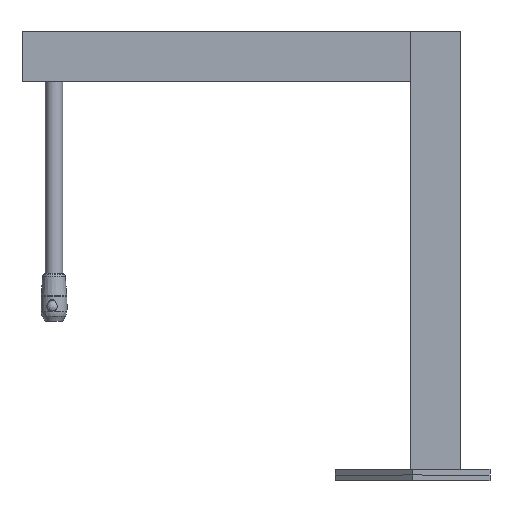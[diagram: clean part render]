
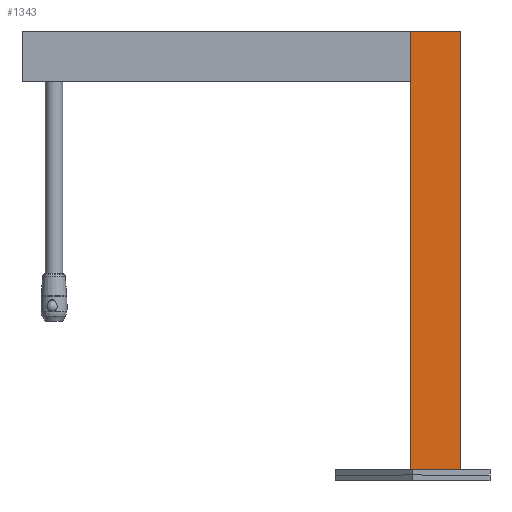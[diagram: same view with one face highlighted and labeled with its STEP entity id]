
A CAD part, top view. The second image highlights one B-rep face of the part: STEP entity #1343.
In plain terms, the highlighted planar face has unit normal (0, 0, 1).
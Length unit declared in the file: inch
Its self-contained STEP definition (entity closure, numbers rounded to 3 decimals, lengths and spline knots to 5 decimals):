
#244=FACE_OUTER_BOUND('',#328,.T.);
#328=EDGE_LOOP('',(#942,#943,#944,#945));
#420=LINE('',#2189,#520);
#423=LINE('',#2195,#523);
#426=LINE('',#2201,#526);
#429=LINE('',#2205,#529);
#520=VECTOR('',#1754,0.3937);
#523=VECTOR('',#1759,0.3937);
#526=VECTOR('',#1764,0.3937);
#529=VECTOR('',#1769,0.3937);
#620=VERTEX_POINT('',#2186);
#621=VERTEX_POINT('',#2188);
#623=VERTEX_POINT('',#2194);
#625=VERTEX_POINT('',#2200);
#744=EDGE_CURVE('',#621,#620,#420,.T.);
#747=EDGE_CURVE('',#623,#621,#423,.T.);
#750=EDGE_CURVE('',#625,#623,#426,.T.);
#753=EDGE_CURVE('',#620,#625,#429,.T.);
#942=ORIENTED_EDGE('',*,*,#753,.T.);
#943=ORIENTED_EDGE('',*,*,#750,.T.);
#944=ORIENTED_EDGE('',*,*,#747,.T.);
#945=ORIENTED_EDGE('',*,*,#744,.T.);
#1298=PLANE('',#1585);
#1343=ADVANCED_FACE('',(#244),#1298,.T.);
#1585=AXIS2_PLACEMENT_3D('',#2206,#1770,#1771);
#1754=DIRECTION('',(1.,0.,0.));
#1759=DIRECTION('',(0.,-1.,0.));
#1764=DIRECTION('',(-1.,0.,0.));
#1769=DIRECTION('',(0.,1.,0.));
#1770=DIRECTION('center_axis',(0.,0.,1.));
#1771=DIRECTION('ref_axis',(1.,0.,0.));
#2186=CARTESIAN_POINT('',(2.75,-24.,1.5));
#2188=CARTESIAN_POINT('',(-2.75,-24.,1.5));
#2189=CARTESIAN_POINT('',(-2.75,-24.,1.5));
#2194=CARTESIAN_POINT('',(-2.75,24.,1.5));
#2195=CARTESIAN_POINT('',(-2.75,24.,1.5));
#2200=CARTESIAN_POINT('',(2.75,24.,1.5));
#2201=CARTESIAN_POINT('',(2.75,24.,1.5));
#2205=CARTESIAN_POINT('',(2.75,-24.,1.5));
#2206=CARTESIAN_POINT('Origin',(0.,0.,
1.5));
